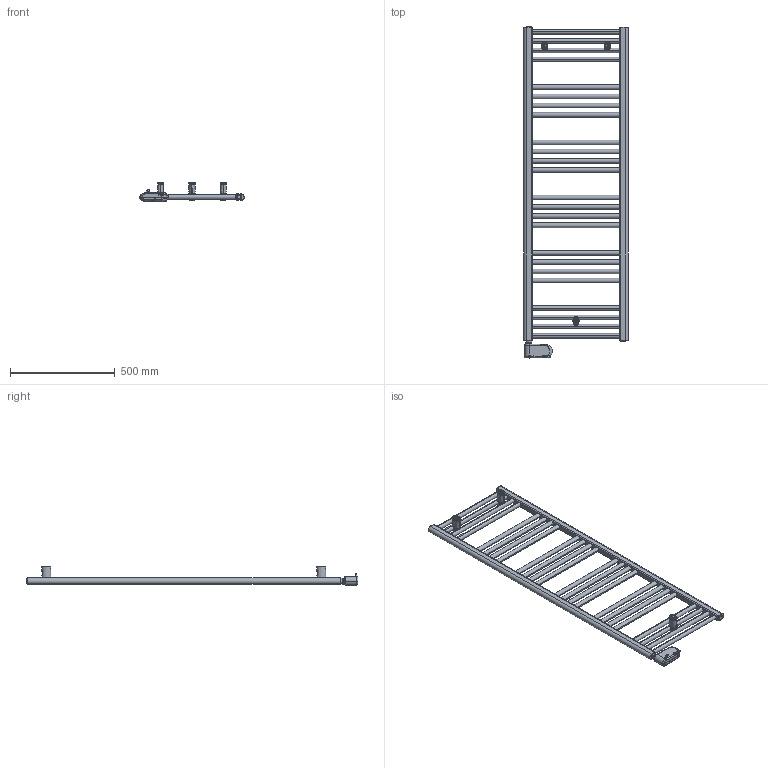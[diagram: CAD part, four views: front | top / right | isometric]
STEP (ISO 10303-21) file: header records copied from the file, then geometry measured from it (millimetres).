
FILE_DESCRIPTION((''),'2;1');
FILE_NAME('3581656100016_3D_SITO_ASM','2023-10-10T14:10:59',('PC132'),(''),'CREO PARAMETRIC BY PTC INC, 2023092','CREO PARAMETRIC BY PTC INC, 2023092','');
FILE_SCHEMA(('AUTOMOTIVE_DESIGN { 1 0 10303 214 1 1 1 1 }'));
Length unit declared in the file: millimetre
Products named in the file (17): 2551650500212_3D_SITO; BICCHIERE_PARETE; PERNO_SCORROVOLE; DADO_QUADRO_M5_X_GIUNTO; DADO_M6_X_GIUNTO; PERNO_SCORREVOLE_ASM; BASETTA_ANTERIORE; COPERTURA_BASETTA; VITE_CR_M5_16; VITE_CR_SV_M6_35; 1102001310058_ASM; 1010181240001; 1117000001010; 1035270000037_FRONT; 1035270000037_BACK; 1035270000060_ASM; 3581656100016_3D_SITO_ASM
Assembly tree (19 placements, depth 4):
  3581656100016_3D_SITO_ASM
    2551650500212_3D_SITO
    1102001310058_ASM  x3
      BICCHIERE_PARETE
      PERNO_SCORREVOLE_ASM
        PERNO_SCORROVOLE
        DADO_QUADRO_M5_X_GIUNTO
        DADO_M6_X_GIUNTO
      BASETTA_ANTERIORE
      COPERTURA_BASETTA
      VITE_CR_M5_16
      VITE_CR_SV_M6_35
    1010181240001  x2
    1117000001010
    1035270000060_ASM
      1035270000037_FRONT
      1035270000037_BACK
Bounding box: 500 x 1586.4 x 88.65 mm (x, y, z)
Volume: 7588101.4 mm3; surface area: 1225449 mm2
Topology: 32 solids, 45 shells, 5053 faces, 11104 edges, 6169 vertices
Faces by surface type: cylinder 1952, plane 895, torus 766, sphere 641, bspline 609, cone 136, extrusion 54
Entity records: 109730 total; most frequent: CARTESIAN_POINT 41994, DIRECTION 10220, ORIENTED_EDGE 8630, EDGE_CURVE 4328, PRESENTATION_STYLE_ASSIGNMENT 4278, STYLED_ITEM 4274, CURVE_STYLE 4257, AXIS2_PLACEMENT_3D 4239
